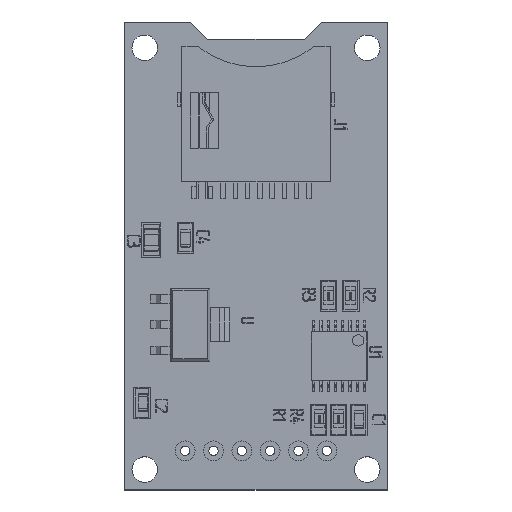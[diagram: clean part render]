
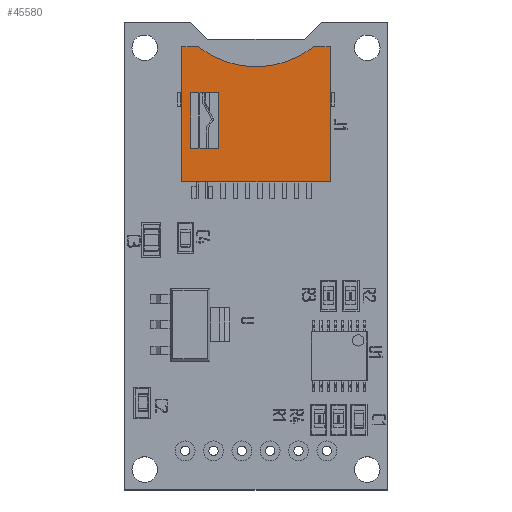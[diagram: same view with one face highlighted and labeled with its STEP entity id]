
A CAD part, top view. The second image highlights one B-rep face of the part: STEP entity #45580.
In plain terms, the highlighted planar face has unit normal (0, 0, 1) as drawn and (0, 1, 0) by its records, which use the part's own axes.
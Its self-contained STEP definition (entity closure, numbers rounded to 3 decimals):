
#1932=LINE('',#74829,#4274);
#1939=LINE('',#74845,#4281);
#1942=LINE('',#74851,#4284);
#2161=LINE('',#75369,#4503);
#2162=LINE('',#75371,#4504);
#2163=LINE('',#75373,#4505);
#2164=LINE('',#75375,#4506);
#2165=LINE('',#75377,#4507);
#2166=LINE('',#75378,#4508);
#4274=VECTOR('',#51979,1000.);
#4281=VECTOR('',#51988,1000.);
#4284=VECTOR('',#51993,1000.);
#4503=VECTOR('',#52438,1000.);
#4504=VECTOR('',#52439,1000.);
#4505=VECTOR('',#52440,1000.);
#4506=VECTOR('',#52441,1000.);
#4507=VECTOR('',#52442,1000.);
#4508=VECTOR('',#52443,1000.);
#5578=CIRCLE('',#47469,8.34);
#12178=ORIENTED_EDGE('',*,*,#18768,.F.);
#12179=ORIENTED_EDGE('',*,*,#18769,.T.);
#12180=ORIENTED_EDGE('',*,*,#18770,.T.);
#12181=ORIENTED_EDGE('',*,*,#18771,.T.);
#12182=ORIENTED_EDGE('',*,*,#18772,.T.);
#12183=ORIENTED_EDGE('',*,*,#18773,.T.);
#12184=ORIENTED_EDGE('',*,*,#18517,.F.);
#12185=ORIENTED_EDGE('',*,*,#18774,.F.);
#12186=ORIENTED_EDGE('',*,*,#18510,.F.);
#12187=ORIENTED_EDGE('',*,*,#18520,.F.);
#18510=EDGE_CURVE('',#22363,#22364,#1932,.T.);
#18517=EDGE_CURVE('',#22370,#22371,#1939,.T.);
#18520=EDGE_CURVE('',#22371,#22363,#1942,.T.);
#18768=EDGE_CURVE('',#22549,#22550,#5578,.T.);
#18769=EDGE_CURVE('',#22549,#22551,#2161,.T.);
#18770=EDGE_CURVE('',#22551,#22552,#2162,.T.);
#18771=EDGE_CURVE('',#22552,#22553,#2163,.T.);
#18772=EDGE_CURVE('',#22553,#22554,#2164,.T.);
#18773=EDGE_CURVE('',#22554,#22550,#2165,.T.);
#18774=EDGE_CURVE('',#22364,#22370,#2166,.T.);
#22363=VERTEX_POINT('',#74830);
#22364=VERTEX_POINT('',#74831);
#22370=VERTEX_POINT('',#74844);
#22371=VERTEX_POINT('',#74846);
#22549=VERTEX_POINT('',#75367);
#22550=VERTEX_POINT('',#75368);
#22551=VERTEX_POINT('',#75370);
#22552=VERTEX_POINT('',#75372);
#22553=VERTEX_POINT('',#75374);
#22554=VERTEX_POINT('',#75376);
#26708=EDGE_LOOP('',(#12178,#12179,#12180,#12181,#12182,#12183));
#26709=EDGE_LOOP('',(#12184,#12185,#12186,#12187));
#28934=FACE_BOUND('',#26708,.T.);
#28935=FACE_BOUND('',#26709,.T.);
#30670=PLANE('',#47468);
#45580=ADVANCED_FACE('',(#28934,#28935),#30670,.T.);
#47468=AXIS2_PLACEMENT_3D('',#75365,#52434,#52435);
#47469=AXIS2_PLACEMENT_3D('',#75366,#52436,#52437);
#51979=DIRECTION('',(0.,0.,-1.));
#51988=DIRECTION('',(0.,0.,1.));
#51993=DIRECTION('',(1.,0.,0.));
#52434=DIRECTION('',(0.,1.,0.));
#52435=DIRECTION('',(0.,0.,1.));
#52436=DIRECTION('',(0.,1.,0.));
#52437=DIRECTION('',(0.,0.,-1.));
#52438=DIRECTION('',(1.,0.,0.));
#52439=DIRECTION('',(0.,0.,-1.));
#52440=DIRECTION('',(-1.,0.,0.));
#52441=DIRECTION('',(0.,0.,1.));
#52442=DIRECTION('',(1.,0.,0.));
#52443=DIRECTION('',(-1.,0.,0.));
#74829=CARTESIAN_POINT('',(5.85,1.7,-3.05));
#74830=CARTESIAN_POINT('',(5.85,1.7,1.95));
#74831=CARTESIAN_POINT('',(5.85,1.7,-3.05));
#74844=CARTESIAN_POINT('',(3.35,1.7,-3.05));
#74845=CARTESIAN_POINT('',(3.35,1.7,-3.05));
#74846=CARTESIAN_POINT('',(3.35,1.7,1.95));
#74851=CARTESIAN_POINT('',(3.35,1.7,1.95));
#75365=CARTESIAN_POINT('',(0.,1.7,0.));
#75366=CARTESIAN_POINT('',(0.,1.7,12.61));
#75367=CARTESIAN_POINT('',(5.15,1.7,6.05));
#75368=CARTESIAN_POINT('',(-5.15,1.7,6.05));
#75369=CARTESIAN_POINT('',(-6.65,1.7,6.05));
#75370=CARTESIAN_POINT('',(6.65,1.7,6.05));
#75371=CARTESIAN_POINT('',(6.65,1.7,-6.05));
#75372=CARTESIAN_POINT('',(6.65,1.7,-6.05));
#75373=CARTESIAN_POINT('',(-6.65,1.7,-6.05));
#75374=CARTESIAN_POINT('',(-6.65,1.7,-6.05));
#75375=CARTESIAN_POINT('',(-6.65,1.7,-6.05));
#75376=CARTESIAN_POINT('',(-6.65,1.7,6.05));
#75377=CARTESIAN_POINT('',(-6.65,1.7,6.05));
#75378=CARTESIAN_POINT('',(3.35,1.7,-3.05));
